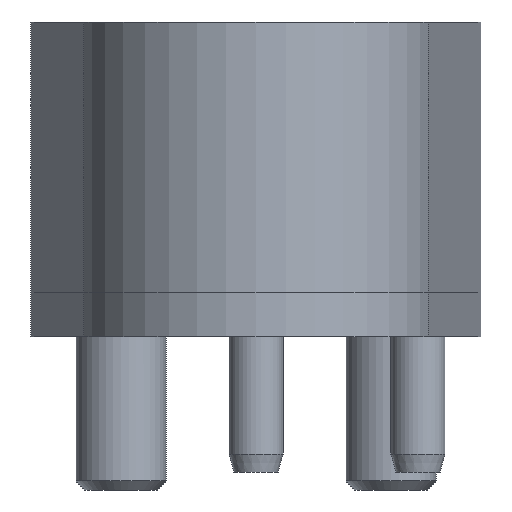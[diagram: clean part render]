
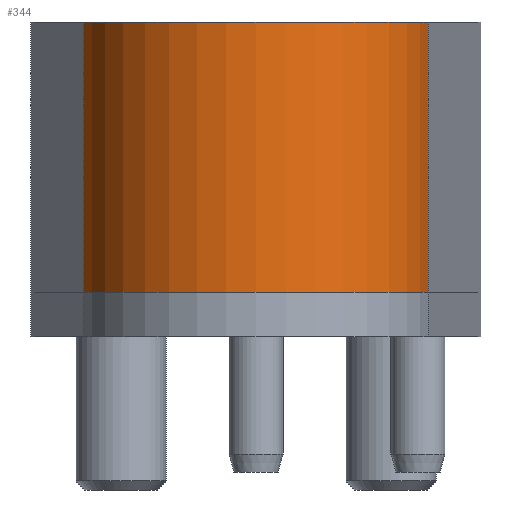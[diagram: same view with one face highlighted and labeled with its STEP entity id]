
A CAD part, left-side view. The second image highlights one B-rep face of the part: STEP entity #344.
In plain terms, the highlighted cylindrical face has radius 19.5 mm (diameter 39 mm), a partial arc.
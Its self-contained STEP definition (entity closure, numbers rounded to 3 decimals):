
#255=CYLINDRICAL_SURFACE('',#2702,19.5);
#344=ADVANCED_FACE('',(#521),#255,.T.);
#521=FACE_OUTER_BOUND('',#673,.T.);
#673=EDGE_LOOP('',(#1167,#1168,#1169,#1170));
#859=CIRCLE('',#2700,19.5);
#860=CIRCLE('',#2701,19.5);
#1167=ORIENTED_EDGE('',*,*,#1975,.T.);
#1168=ORIENTED_EDGE('',*,*,#1976,.F.);
#1169=ORIENTED_EDGE('',*,*,#1977,.F.);
#1170=ORIENTED_EDGE('',*,*,#1978,.T.);
#1715=VERTEX_POINT('',#3979);
#1716=VERTEX_POINT('',#3980);
#1717=VERTEX_POINT('',#3982);
#1718=VERTEX_POINT('',#3984);
#1975=EDGE_CURVE('',#1715,#1716,#2263,.T.);
#1976=EDGE_CURVE('',#1717,#1716,#859,.T.);
#1977=EDGE_CURVE('',#1718,#1717,#2264,.T.);
#1978=EDGE_CURVE('',#1718,#1715,#860,.T.);
#2263=LINE('',#3978,#2455);
#2264=LINE('',#3983,#2456);
#2455=VECTOR('',#3155,1.);
#2456=VECTOR('',#3158,1.);
#2700=AXIS2_PLACEMENT_3D('',#3981,#3156,#3157);
#2701=AXIS2_PLACEMENT_3D('',#3985,#3159,#3160);
#2702=AXIS2_PLACEMENT_3D('',#3986,#3161,#3162);
#3155=DIRECTION('',(0.,0.,1.));
#3156=DIRECTION('',(0.,0.,1.));
#3157=DIRECTION('',(-0.106,0.994,0.));
#3158=DIRECTION('',(0.,0.,1.));
#3159=DIRECTION('',(0.,0.,1.));
#3160=DIRECTION('',(-0.106,0.994,0.));
#3161=DIRECTION('',(0.,0.,1.));
#3162=DIRECTION('',(-1.,0.,0.));
#3978=CARTESIAN_POINT('',(-3.771,-19.132,5.));
#3979=CARTESIAN_POINT('',(-3.771,-19.132,5.));
#3980=CARTESIAN_POINT('',(-3.771,-19.132,35.));
#3981=CARTESIAN_POINT('',(0.,0.,35.));
#3982=CARTESIAN_POINT('',(-3.771,19.132,35.));
#3983=CARTESIAN_POINT('',(-3.771,19.132,5.));
#3984=CARTESIAN_POINT('',(-3.771,19.132,5.));
#3985=CARTESIAN_POINT('',(0.,0.,5.));
#3986=CARTESIAN_POINT('',(0.,0.,0.));
